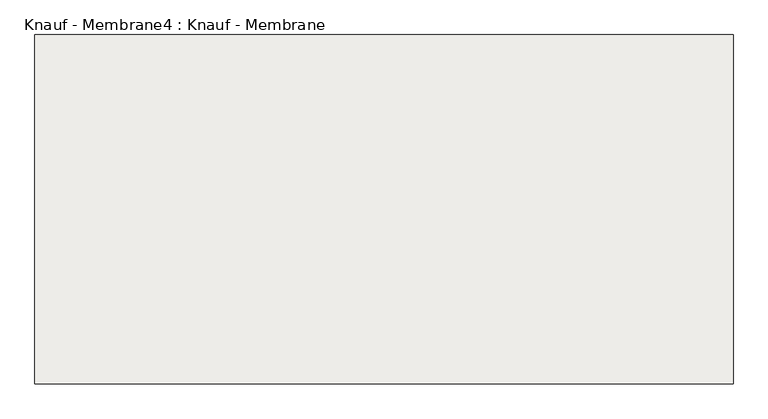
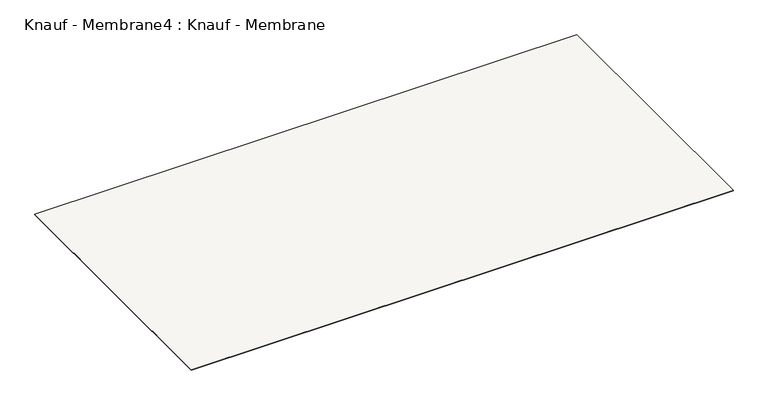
"""IFC4 building model written with IfcOpenShell, lengths in millimetres: slab geometry, Knauf - Membrane4 : Knauf - Membrane."""

from ifc_helpers import new_model, si_unit, frame, origin, place, context, project, spatial, polyline, outline, extrude, source, transform, mapped, element, save


def knauf_membrane4_knauf_membrane_6792dd90(model_context):
    return source(origin(), model_context, "Body", "SweptSolid", [
        extrude(outline(polyline([(20416.285179, 16926.9464372), (20416.285179, 16176.9464372), (18916.9737808, 16176.9464372), (18916.9737808, 16926.9464372), (20416.285179, 16926.9464372)])), frame((0.0, 0.0, -18.0), z_axis=(0.0, 0.0, 1.0), x_axis=(1.0, 0.0, 0.0)), (0.0, 0.0, 1.0), 1.0),
    ])


if __name__ == "__main__":
    model = new_model("IFC4")
    model_context = context("Model", 3, world=origin())
    ifc_project = project(units=[si_unit("LENGTHUNIT", "METRE", prefix="MILLI")], contexts=[model_context])
    site = spatial("IfcSite", under=ifc_project)
    building = spatial("IfcBuilding", under=site)
    placement = place(None, origin())
    knauf_membrane4_knauf_membrane_shape = knauf_membrane4_knauf_membrane_6792dd90(model_context)
    element("IfcSlab", 1, ObjectType="Knauf - Membrane4 : Knauf - Membrane", at=placement, inside=building, context=model_context, shape_type="MappedRepresentation", body=[
        mapped(knauf_membrane4_knauf_membrane_shape, transform((0.0, 0.0, 0.0), x_axis=(1.0, 0.0, 0.0), y_axis=(0.0, 1.0, 0.0), z_axis=(0.0, 0.0, 1.0))),
    ])
    save(model, "model.ifc")
